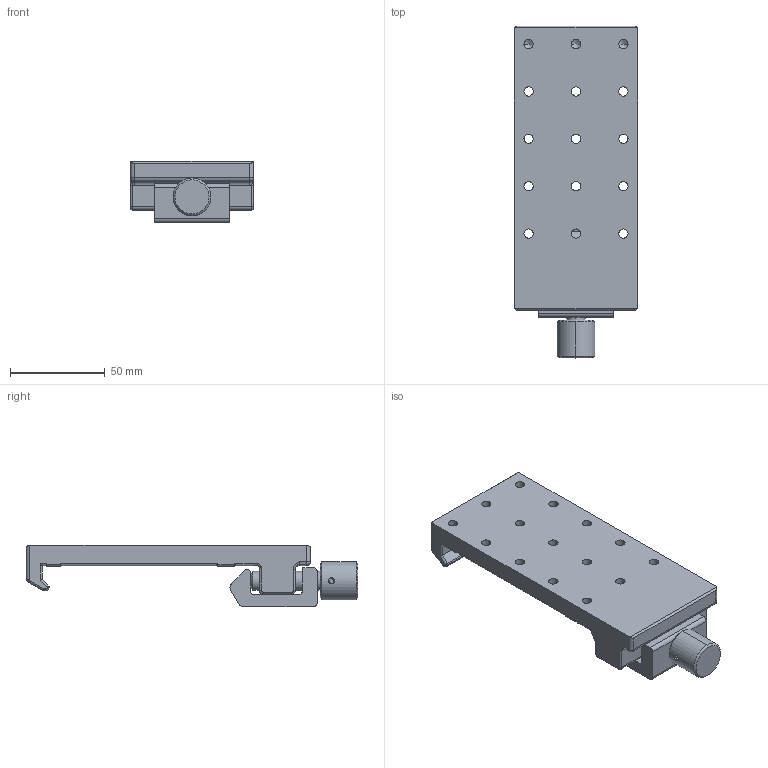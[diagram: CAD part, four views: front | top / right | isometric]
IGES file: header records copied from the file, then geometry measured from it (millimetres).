
Global section: file name: No Iges File Name specified; native system: AutoDesk Inventor R11.0; preprocessor: AutoDesk Inventor Iges Exporter R11.0; author: No Author specified; organization: No Organization specified; date: 20070608.171718; units: millimetre
Bounding box: 65 x 175.05 x 32.2 mm (x, y, z)
Volume: 153351.1 mm3; surface area: 40333.2 mm2
Topology: 6 solids, 6 shells, 247 faces, 616 edges, 371 vertices
Faces by surface type: plane 75, cylinder 66, bspline 62, cone 18, revolution 14, torus 8, sphere 4
